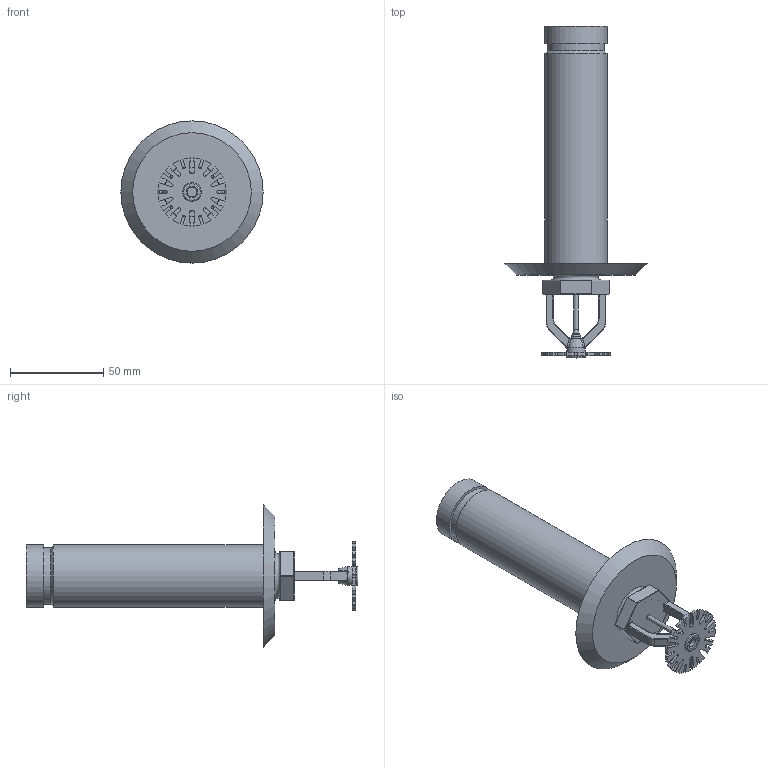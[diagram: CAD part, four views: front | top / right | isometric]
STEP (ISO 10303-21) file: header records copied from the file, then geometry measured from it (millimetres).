
FILE_DESCRIPTION(/* description */ ('VIC SPRINKLER V3608 K8.0 DRY PENDENT QUICK RESPONSE (IGS)','CAx-IF Rec.Pracs.---Representation and Presentation of Product Manufacturing Information (PMI)---4.0---2014-10-13'),/* implementation_level */ '2;1');
FILE_NAME(/* name */ 'C:\Users\kkamble\AppData\Roaming\Autodesk\ApplicationPlugins\Victaulic.Temp\A660\Victaulic_FP-Sprinkler_V3608_DRY_QR_Pendent (IGS)_FLUSH_1 (25).stp',/* time_stamp */ '2021-03-29T16:30:17+05:00',/* author */ ('kkamble'),/* organization */ ('Victaulic'),/* preprocessor_version */ 'ST-DEVELOPER v17.2',/* originating_system */ 'Autodesk Inventor 2019',/* authorisation */ '');
FILE_SCHEMA (('AP242_MANAGED_MODEL_BASED_3D_ENGINEERING_MIM_LF { 1 0 10303 442 1 1 4 }'));
Length unit declared in the file: inch
Products named in the file (2): V3608_Flush-01.0; V3608-01.0
Assembly tree (1 placements, depth 2):
  V3608_Flush-01.0
    V3608-01.0
Bounding box: 76.2 x 177.8 x 76.2 mm (x, y, z)
Volume: 70973.5 mm3; surface area: 39728.9 mm2
Topology: 1 solids, 1 shells, 323 faces, 835 edges, 517 vertices
Faces by surface type: cylinder 106, plane 101, bspline 70, torus 25, sphere 12, cone 9
Full cylindrical faces by diameter (mm): 2.54 x1, 5.08 x2, 10.16 x2, 20.93 x1, 26.645 x1, 30.226 x1, 33.401 x2
Entity records: 11540 total; most frequent: CARTESIAN_POINT 3435, ORIENTED_EDGE 1660, DIRECTION 1571, EDGE_CURVE 830, AXIS2_PLACEMENT_3D 605, VERTEX_POINT 517, LINE 361, VECTOR 361
